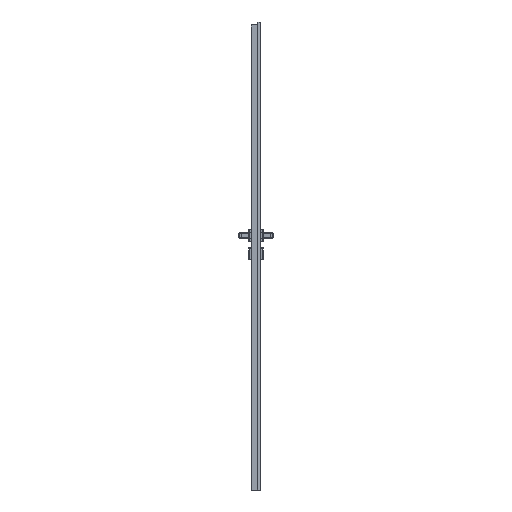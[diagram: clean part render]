
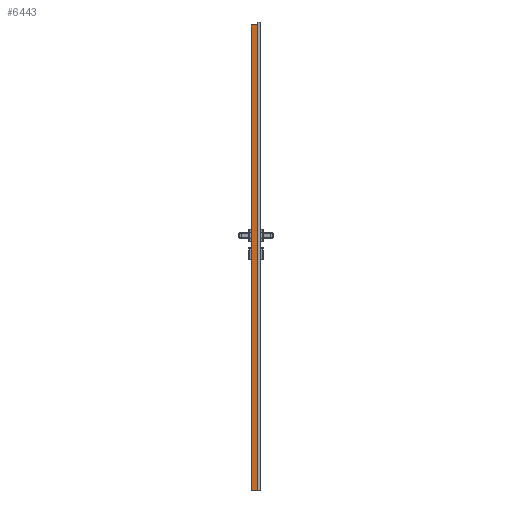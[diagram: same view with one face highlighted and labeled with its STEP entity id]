
A CAD part, left-side view. The second image highlights one B-rep face of the part: STEP entity #6443.
In plain terms, the highlighted planar face has unit normal (-1, 0, 0).
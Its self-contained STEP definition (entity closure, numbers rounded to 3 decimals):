
#6443=ADVANCED_FACE('',(#16392),#12957,.F.);
#12957=PLANE('',#116649);
#16392=FACE_OUTER_BOUND('',#22857,.T.);
#22857=EDGE_LOOP('',(#33242,#33243,#33244,#33245,#33246));
#33242=ORIENTED_EDGE('',*,*,#77619,.T.);
#33243=ORIENTED_EDGE('',*,*,#77620,.T.);
#33244=ORIENTED_EDGE('',*,*,#77621,.T.);
#33245=ORIENTED_EDGE('',*,*,#77622,.F.);
#33246=ORIENTED_EDGE('',*,*,#77623,.T.);
#67422=VERTEX_POINT('',#152433);
#67423=VERTEX_POINT('',#152434);
#67424=VERTEX_POINT('',#152436);
#67425=VERTEX_POINT('',#152438);
#67426=VERTEX_POINT('',#152440);
#77619=EDGE_CURVE('',#67422,#67423,#94560,.T.);
#77620=EDGE_CURVE('',#67423,#67424,#94561,.T.);
#77621=EDGE_CURVE('',#67424,#67425,#94562,.T.);
#77622=EDGE_CURVE('',#67426,#67425,#94563,.T.);
#77623=EDGE_CURVE('',#67426,#67422,#94564,.T.);
#94560=LINE('',#152432,#105619);
#94561=LINE('',#152435,#105620);
#94562=LINE('',#152437,#105621);
#94563=LINE('',#152439,#105622);
#94564=LINE('',#152441,#105623);
#105619=VECTOR('',#124596,1.);
#105620=VECTOR('',#124597,1.);
#105621=VECTOR('',#124598,1.);
#105622=VECTOR('',#124599,1.);
#105623=VECTOR('',#124600,1.);
#116649=AXIS2_PLACEMENT_3D('',#152442,#124601,#124602);
#124596=DIRECTION('',(0.,0.,-1.));
#124597=DIRECTION('',(0.,-0.894,-0.447));
#124598=DIRECTION('',(0.,-1.,0.));
#124599=DIRECTION('',(0.,0.,-1.));
#124600=DIRECTION('',(0.,1.,0.));
#124601=DIRECTION('',(1.,0.,0.));
#124602=DIRECTION('',(0.,0.,-1.));
#152432=CARTESIAN_POINT('',(-308.985,0.,2250.));
#152433=CARTESIAN_POINT('',(-308.985,0.,2016.999));
#152434=CARTESIAN_POINT('',(-308.985,0.,1.));
#152435=CARTESIAN_POINT('',(-308.985,899.6,450.8));
#152436=CARTESIAN_POINT('',(-308.985,-2.,0.));
#152437=CARTESIAN_POINT('',(-308.985,0.,0.));
#152438=CARTESIAN_POINT('',(-308.985,-26.,0.));
#152439=CARTESIAN_POINT('',(-308.985,-26.,2250.));
#152440=CARTESIAN_POINT('',(-308.985,-26.,2016.999));
#152441=CARTESIAN_POINT('',(-308.985,0.,2016.999));
#152442=CARTESIAN_POINT('',(-308.985,0.,2250.));
